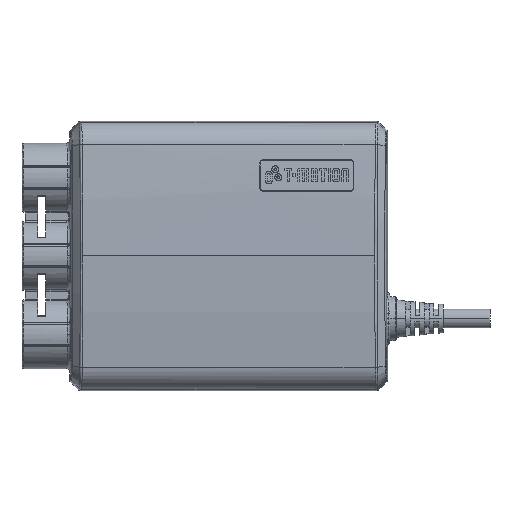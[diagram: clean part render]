
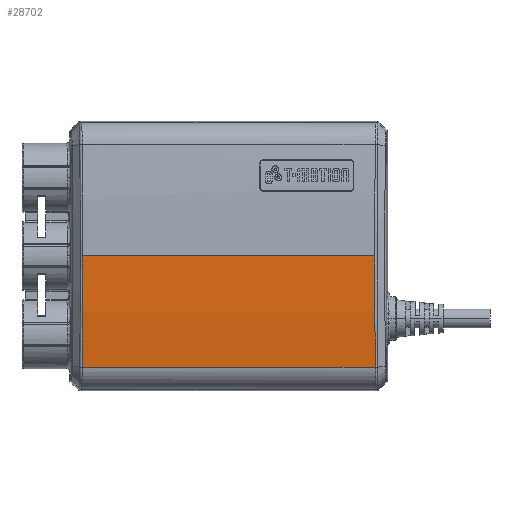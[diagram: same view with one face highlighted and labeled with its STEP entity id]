
A CAD part, top view. The second image highlights one B-rep face of the part: STEP entity #28702.
In plain terms, the highlighted cylindrical face has radius 301.216 mm (diameter 602.433 mm), a partial arc.
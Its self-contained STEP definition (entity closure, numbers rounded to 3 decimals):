
#3260 = CARTESIAN_POINT ( 'NONE',  ( -46.725, 0., 20. ) ) ;
#3263 = CARTESIAN_POINT ( 'NONE',  ( -46.725, -11.906, 20. ) ) ;
#3264 = CARTESIAN_POINT ( 'NONE',  ( -46.751, -23.771, 19.297 ) ) ;
#3265 = CARTESIAN_POINT ( 'NONE',  ( -46.798, -35.593, 17.89 ) ) ;
#3287 = CARTESIAN_POINT ( 'NONE',  ( 60., 0., 20. ) ) ;
#3296 = CARTESIAN_POINT ( 'NONE',  ( 46.798, -35.593, 17.89 ) ) ;
#3297 = DIRECTION ( 'NONE',  ( -1., 0., 0. ) ) ;
#3301 = CARTESIAN_POINT ( 'NONE',  ( 60., -35.593, 17.89 ) ) ;
#3302 = CARTESIAN_POINT ( 'NONE',  ( 46.774, -29.686, 18.593 ) ) ;
#3303 = CARTESIAN_POINT ( 'NONE',  ( 46.756, -23.765, 19.12 ) ) ;
#3304 = CARTESIAN_POINT ( 'NONE',  ( 46.731, -11.898, 19.824 ) ) ;
#3305 = CARTESIAN_POINT ( 'NONE',  ( 46.725, -5.949, 20. ) ) ;
#3306 = CARTESIAN_POINT ( 'NONE',  ( 46.725, 0., 20. ) ) ;
#3310 = DIRECTION ( 'NONE',  ( 1., 0., 0. ) ) ;
#5968 = LINE ( 'NONE', #3287, #5977 ) ;
#5977 = VECTOR ( 'NONE', #3297, 1000. ) ;
#5982 = LINE ( 'NONE', #3301, #5984 ) ;
#5984 = VECTOR ( 'NONE', #3310, 1000. ) ;
#9320 = EDGE_CURVE ( 'NONE', #54952, #54982, #35302, .T. ) ;
#9332 = EDGE_CURVE ( 'NONE', #55000, #54952, #5968, .T. ) ;
#9334 = EDGE_CURVE ( 'NONE', #55003, #55000, #35303, .T. ) ;
#9336 = EDGE_CURVE ( 'NONE', #54982, #55003, #5982, .T. ) ;
#13177 = CARTESIAN_POINT ( 'NONE',  ( -46.725, 0., 20. ) ) ;
#13207 = CARTESIAN_POINT ( 'NONE',  ( -46.798, -35.593, 17.89 ) ) ;
#13225 = CARTESIAN_POINT ( 'NONE',  ( 46.725, 0., 20. ) ) ;
#13228 = CARTESIAN_POINT ( 'NONE',  ( 46.798, -35.593, 17.89 ) ) ;
#22399 = ORIENTED_EDGE ( 'NONE', *, *, #9334, .T. ) ;
#22401 = ORIENTED_EDGE ( 'NONE', *, *, #9332, .T. ) ;
#22404 = ORIENTED_EDGE ( 'NONE', *, *, #9320, .T. ) ;
#22408 = ORIENTED_EDGE ( 'NONE', *, *, #9336, .T. ) ;
#28304 = DIRECTION ( 'NONE',  ( 0., 0., 1. ) ) ;
#28313 = DIRECTION ( 'NONE',  ( -1., 0., 0. ) ) ;
#28314 = CARTESIAN_POINT ( 'NONE',  ( 60., 0., -281.216 ) ) ;
#28702 = ADVANCED_FACE ( 'NONE', ( #47004 ), #47009, .T. ) ;
#29788 = EDGE_LOOP ( 'NONE', ( #22399, #22401, #22404, #22408 ) ) ;
#35302 = B_SPLINE_CURVE_WITH_KNOTS ( 'NONE', 3,
 ( #3260, #3263, #3264, #3265 ),
 .UNSPECIFIED., .F., .F.,
 ( 4, 4 ),
 ( 0.036, 0.071 ),
 .UNSPECIFIED. ) ;
#35303 = B_SPLINE_CURVE_WITH_KNOTS ( 'NONE', 3,
 ( #3296, #3302, #3303, #3304, #3305, #3306 ),
 .UNSPECIFIED., .F., .F.,
 ( 4, 2, 4 ),
 ( 0., 0.018, 0.036 ),
 .UNSPECIFIED. ) ;
#36088 = AXIS2_PLACEMENT_3D ( 'NONE', #28314, #28313, #28304 ) ;
#47004 = FACE_OUTER_BOUND ( 'NONE', #29788, .T. ) ;
#47009 = CYLINDRICAL_SURFACE ( 'NONE', #36088, 301.216 ) ;
#54952 = VERTEX_POINT ( 'NONE', #13177 ) ;
#54982 = VERTEX_POINT ( 'NONE', #13207 ) ;
#55000 = VERTEX_POINT ( 'NONE', #13225 ) ;
#55003 = VERTEX_POINT ( 'NONE', #13228 ) ;
